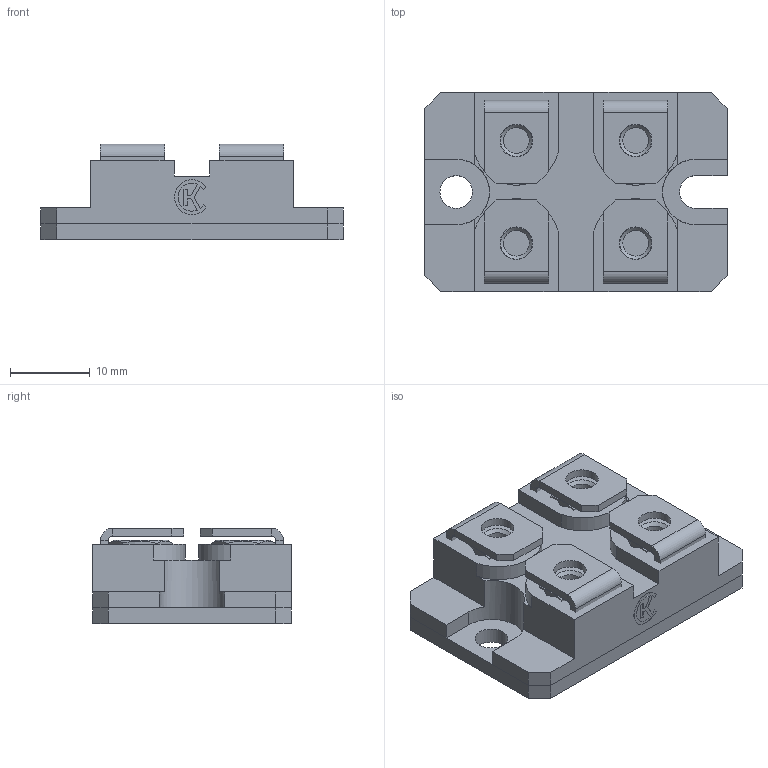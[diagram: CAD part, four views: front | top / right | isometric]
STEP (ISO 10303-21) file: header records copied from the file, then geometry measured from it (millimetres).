
FILE_DESCRIPTION(('STEP AP203'), '1');
FILE_NAME('ÍÐ1-82-100', '', ('UNSPECIFIED'), ('UNSPECIFIED'), 'C3D Converter', 'C3D Toolkit', '');
FILE_SCHEMA(('CONFIG_CONTROL_DESIGN'));
Length unit declared in the file: millimetre
Products named in the file (7): -01
Assembly tree (10 placements, depth 2):
  (unnamed)
    (unnamed)
    (unnamed)  x2
    (unnamed)  x2
    -01  x2
    (unnamed)  x2
    (unnamed)
Bounding box: 38 x 25 x 12 mm (x, y, z)
Volume: 7193.1 mm3; surface area: 6734.2 mm2
Topology: 10 solids, 10 shells, 220 faces, 558 edges, 364 vertices
Faces by surface type: plane 176, cylinder 28, cone 16
Full cylindrical faces by diameter (mm): 3.242 x4, 4.1 x5
Entity records: 7580 total; most frequent: CARTESIAN_POINT 1954, ORIENTED_EDGE 802, DIRECTION 771, EDGE_CURVE 401, LINE 313, VECTOR 313, VERTEX_POINT 272, AXIS2_PLACEMENT_3D 229
